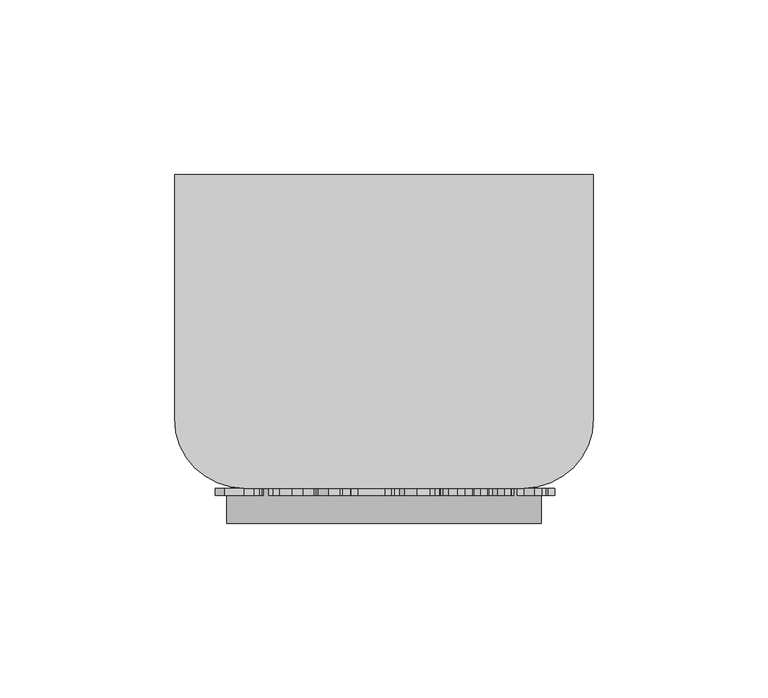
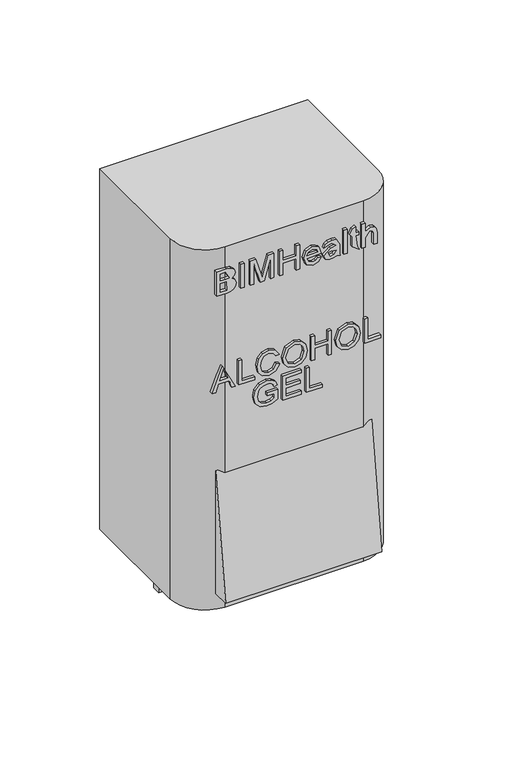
"""IFC4 building model written with IfcOpenShell, lengths in millimetres: furniture geometry, BIMHealth-Alcohol_gel_dispenser-LOD2A-v1 : BIMHealth-Alcohol_gel_dispenser-LOD2A-v1."""

from ifc_helpers import new_model, si_unit, point, frame, frame_2d, origin, place, context, project, spatial, polyline, circle_curve, trimmed, segment, composite_curve, outline, extrude, source, transform, mapped, element, save


def furniture_c1ab0958(model_context):
    return source(origin(), model_context, "Body", "SweptSolid", [
        extrude(outline(composite_curve([segment(polyline([(-27.7204761, 1175.8518543), (-32.7330725, 1175.8518543)]), True, "CONTINUOUS"), segment(trimmed(circle_curve(frame_2d((9.9472305, 1178.699775)), 42.7752137), [point((-32.7330725, 1175.8518543))], [point((-27.147504, 1200.0))], False, "CARTESIAN"), True, "CONTINUOUS"), segment(polyline([(-27.147504, 1200.0), (-21.25, 1200.0)]), True, "CONTINUOUS"), segment(trimmed(circle_curve(frame_2d((9.9472305, 1178.699775)), 37.7752137), [point((-21.25, 1200.0))], [point((-27.7204761, 1175.8518543))], True, "CARTESIAN"), True, "CONTINUOUS")], self_intersect=False)), frame((15.0, 0.0, 0.0), z_axis=(1.0, 0.0, 0.0), x_axis=(0.0, 1.0, 0.0)), (0.0, 0.0, 1.0), 90.0),
        extrude(outline(composite_curve([segment(polyline([(120.0, 0.0), (120.0, -70.0)]), True, "CONTINUOUS"), segment(trimmed(circle_curve(frame_2d((100.0, -70.0)), 20.0), [point((120.0, -70.0))], [point((100.0, -90.0))], False, "CARTESIAN"), True, "CONTINUOUS"), segment(polyline([(100.0, -90.0), (20.0, -90.0)]), True, "CONTINUOUS"), segment(trimmed(circle_curve(frame_2d((20.0, -70.0)), 20.0), [point((20.0, -90.0))], [point((0.0, -70.0))], False, "CARTESIAN"), True, "CONTINUOUS"), segment(polyline([(0.0, -70.0), (0.0, 0.0), (120.0, 0.0)]), True, "CONTINUOUS")], self_intersect=False)), frame((0.0, 0.0, 1200.0), z_axis=(0.0, 0.0, 1.0), x_axis=(1.0, 0.0, 0.0)), (0.0, 0.0, 1.0), 220.0),
        extrude(outline(polyline([(1334.3741496, 11.6790582), (1334.3741496, 13.6297794), (1338.9895342, 15.3172794), (1338.9895342, 21.4002121), (1334.3741496, 23.0913178), (1334.3741496, 25.042039), (1349.1433804, 17.5744909), (1334.3741496, 11.6790582)]), holes=[polyline([(1340.8356881, 15.995164), (1344.7840054, 17.4410775), (1347.2972265, 18.3605486), (1344.4666977, 19.3954044), (1340.8356881, 20.7259332), (1340.8356881, 15.995164)])]), frame((0.0, -92.0, 0.0), z_axis=(0.0, 1.0, 0.0), x_axis=(0.0, 0.0, 1.0)), (0.0, 0.0, 1.0), 2.0),
        extrude(outline(polyline([(1334.3741496, 27.0143948), (1334.3741496, 36.245164), (1336.2203034, 36.245164), (1336.2203034, 28.8605486), (1349.1433804, 28.8605486), (1349.1433804, 27.0143948), (1334.3741496, 27.0143948)])), frame((0.0, -92.0, 0.0), z_axis=(0.0, 1.0, 0.0), x_axis=(0.0, 0.0, 1.0)), (0.0, 0.0, 1.0), 2.0),
        extrude(outline(polyline([(1339.6241496, 48.7067025), (1336.9053996, 47.1399957), (1335.9895342, 44.3148755), (1336.6620102, 41.7673996), (1338.6938611, 40.0330246), (1341.8741496, 39.4759332), (1344.61814, 39.9464861), (1346.7383323, 41.5780967), (1347.5279958, 44.4663178), (1346.8158563, 46.9615101), (1344.5460246, 48.4759332), (1344.9859284, 50.3220871), (1348.2239092, 48.2361496), (1349.3741496, 44.5384332), (1348.4853275, 40.9903563), (1345.883765, 38.5041784), (1341.8705438, 37.6297794), (1337.9222265, 38.4032169), (1335.1133323, 40.6568226), (1334.1433804, 44.4987698), (1335.4252313, 48.3641544), (1339.1481881, 50.5528563), (1339.6241496, 48.7067025)])), frame((0.0, -92.0, 0.0), z_axis=(0.0, 1.0, 0.0), x_axis=(0.0, 0.0, 1.0)), (0.0, 0.0, 1.0), 2.0),
        extrude(outline(polyline([(1341.5640534, 52.3990101), (1337.8879717, 53.2427601), (1335.1475871, 55.7235294), (1334.1433804, 59.4374717), (1335.0520342, 63.0125919), (1337.727515, 65.572688), (1341.7335246, 66.4759332), (1345.6854477, 65.6177601), (1348.4005919, 63.1225678), (1349.3741496, 59.448289), (1347.3008323, 54.3677601), (1341.5640534, 52.3990101)]), holes=[polyline([(1341.5460246, 54.245164), (1346.148789, 55.7848275), (1347.5279958, 59.4591063), (1346.8122506, 62.1688419), (1344.7948227, 64.0023755), (1341.7479477, 64.6297794), (1337.4895342, 63.1640342), (1335.9895342, 59.4266544), (1337.4751111, 55.7217265), (1341.5460246, 54.245164)])]), frame((0.0, -92.0, 0.0), z_axis=(0.0, 1.0, 0.0), x_axis=(0.0, 0.0, 1.0)), (0.0, 0.0, 1.0), 2.0),
        extrude(outline(polyline([(1334.3741496, 69.0143948), (1334.3741496, 70.8605486), (1341.2972265, 70.8605486), (1341.2972265, 78.7067025), (1334.3741496, 78.7067025), (1334.3741496, 80.5528563), (1349.1433804, 80.5528563), (1349.1433804, 78.7067025), (1343.1433804, 78.7067025), (1343.1433804, 70.8605486), (1349.1433804, 70.8605486), (1349.1433804, 69.0143948), (1334.3741496, 69.0143948)])), frame((0.0, -92.0, 0.0), z_axis=(0.0, 1.0, 0.0), x_axis=(0.0, 0.0, 1.0)), (0.0, 0.0, 1.0), 2.0),
        extrude(outline(polyline([(1341.5640534, 83.0913178), (1337.8879717, 83.9350678), (1335.1475871, 86.4158371), (1334.1433804, 90.1297794), (1335.0520342, 93.7048996), (1337.727515, 96.2649957), (1341.7335246, 97.1682409), (1345.6854477, 96.3100678), (1348.4005919, 93.8148755), (1349.3741496, 90.1405967), (1347.3008323, 85.0600678), (1341.5640534, 83.0913178)]), holes=[polyline([(1341.5460246, 84.9374717), (1346.148789, 86.4771351), (1347.5279958, 90.151414), (1346.8122506, 92.8611496), (1344.7948227, 94.6946832), (1341.7479477, 95.3220871), (1337.4895342, 93.8563419), (1335.9895342, 90.1189621), (1337.4751111, 86.4140342), (1341.5460246, 84.9374717)])]), frame((0.0, -92.0, 0.0), z_axis=(0.0, 1.0, 0.0), x_axis=(0.0, 0.0, 1.0)), (0.0, 0.0, 1.0), 2.0),
        extrude(outline(polyline([(1334.3741496, 99.7067025), (1334.3741496, 108.9374717), (1336.2203034, 108.9374717), (1336.2203034, 101.5528563), (1349.1433804, 101.5528563), (1349.1433804, 99.7067025), (1334.3741496, 99.7067025)])), frame((0.0, -92.0, 0.0), z_axis=(0.0, 1.0, 0.0), x_axis=(0.0, 0.0, 1.0)), (0.0, 0.0, 1.0), 2.0),
        extrude(outline(polyline([(1321.9126111, 43.3990101), (1321.9126111, 47.5528563), (1319.2443419, 47.5528563), (1318.2329236, 45.683265), (1317.758765, 43.1574236), (1318.3879717, 40.3431207), (1320.3134525, 38.32389), (1323.5316015, 37.6297794), (1326.43064, 38.2067025), (1327.8531159, 39.1568226), (1328.898789, 40.7649957), (1329.2972265, 43.1285775), (1328.9276352, 45.2036976), (1327.9432602, 46.6423996), (1326.2359284, 47.4843467), (1326.7154958, 49.1862698), (1329.1584044, 48.0702842), (1330.6187409, 46.0456448), (1331.1433804, 43.1574236), (1330.2383323, 39.2704044), (1327.4709044, 36.683265), (1323.4558804, 35.7836255), (1319.5291977, 36.6868707), (1316.8410967, 39.3623515), (1315.9126111, 43.3052601), (1316.4967458, 46.4368707), (1318.2383323, 49.3990101), (1323.758765, 49.3990101), (1323.758765, 43.3990101), (1321.9126111, 43.3990101)])), frame((0.0, -92.0, 0.0), z_axis=(0.0, 1.0, 0.0), x_axis=(0.0, 0.0, 1.0)), (0.0, 0.0, 1.0), 2.0),
        extrude(outline(polyline([(1316.1433804, 52.3990101), (1316.1433804, 63.245164), (1317.9895342, 63.245164), (1317.9895342, 54.245164), (1322.8356881, 54.245164), (1322.8356881, 62.5528563), (1324.6818419, 62.5528563), (1324.6818419, 54.245164), (1329.0664573, 54.245164), (1329.0664573, 63.0143948), (1330.9126111, 63.0143948), (1330.9126111, 52.3990101), (1316.1433804, 52.3990101)])), frame((0.0, -92.0, 0.0), z_axis=(0.0, 1.0, 0.0), x_axis=(0.0, 0.0, 1.0)), (0.0, 0.0, 1.0), 2.0),
        extrude(outline(polyline([(1316.1433804, 66.0143948), (1316.1433804, 75.245164), (1317.9895342, 75.245164), (1317.9895342, 67.8605486), (1330.9126111, 67.8605486), (1330.9126111, 66.0143948), (1316.1433804, 66.0143948)])), frame((0.0, -92.0, 0.0), z_axis=(0.0, 1.0, 0.0), x_axis=(0.0, 0.0, 1.0)), (0.0, 0.0, 1.0), 2.0),
        extrude(outline(polyline([(-100.0, 1210.0), (-90.0, 1285.0), (-90.0, 1210.0), (-100.0, 1210.0)])), frame((15.0, 0.0, 0.0), z_axis=(1.0, 0.0, 0.0), x_axis=(0.0, 1.0, 0.0)), (0.0, 0.0, 1.0), 90.0),
        extrude(outline(polyline([(1392.8596209, 14.3661949), (1392.8596209, 19.9587429), (1393.1138276, 22.3259304), (1393.8638276, 23.9323006), (1395.2772892, 25.0086227), (1397.2622651, 25.4431179), (1399.5591401, 24.8066997), (1400.936544, 22.9875891), (1402.2436353, 24.4857862), (1403.9689959, 24.9815795), (1405.858419, 24.3920362), (1407.1943565, 22.7622285), (1407.6288517, 20.0020122), (1407.6288517, 14.3661949), (1392.8596209, 14.3661949)]), holes=[polyline([(1394.7057748, 16.2123487), (1399.7826978, 16.2123487), (1399.7826978, 19.8181179), (1394.7057748, 19.9984064), (1394.7057748, 16.2123487)]), polyline([(1401.6288517, 16.2123487), (1405.7826978, 16.2123487), (1405.7826978, 19.3277333), (1401.7875055, 21.5524929), (1401.6288517, 19.5837429), (1401.6288517, 16.2123487)])]), frame((0.0, -92.0, 0.0), z_axis=(0.0, 1.0, 0.0), x_axis=(0.0, 0.0, 1.0)), (0.0, 0.0, 1.0), 2.0),
        extrude(outline(polyline([(30.0585026, -92.0), (28.2123487, -92.0), (28.2123487, -90.0), (30.0585026, -90.0), (30.0585026, -92.0)])), frame((0.0, 0.0, 1392.8596209), z_axis=(0.0, 0.0, 1.0), x_axis=(1.0, 0.0, 0.0)), (0.0, 0.0, 1.0), 14.7692308),
        extrude(outline(polyline([(1392.8596209, 33.7508102), (1392.8596209, 35.5969641), (1405.7826978, 35.5969641), (1392.8596209, 39.3073006), (1392.8596209, 41.8097045), (1405.7826978, 45.520041), (1392.8596209, 45.520041), (1392.8596209, 47.3661949), (1407.6288517, 47.3661949), (1407.6288517, 44.1895122), (1397.3992844, 41.2183583), (1395.0447171, 40.5585026), (1397.2189959, 39.9491276), (1407.6288517, 36.9274929), (1407.6288517, 33.7508102), (1392.8596209, 33.7508102)])), frame((0.0, -92.0, 0.0), z_axis=(0.0, 1.0, 0.0), x_axis=(0.0, 0.0, 1.0)), (0.0, 0.0, 1.0), 2.0),
        extrude(outline(polyline([(1392.8596209, 50.5969641), (1392.8596209, 52.4431179), (1399.7826978, 52.4431179), (1399.7826978, 60.2892718), (1392.8596209, 60.2892718), (1392.8596209, 62.1354256), (1407.6288517, 62.1354256), (1407.6288517, 60.2892718), (1401.6288517, 60.2892718), (1401.6288517, 52.4431179), (1407.6288517, 52.4431179), (1407.6288517, 50.5969641), (1392.8596209, 50.5969641)])), frame((0.0, -92.0, 0.0), z_axis=(0.0, 1.0, 0.0), x_axis=(0.0, 0.0, 1.0)), (0.0, 0.0, 1.0), 2.0),
        extrude(outline(polyline([(1396.0903901, 72.7291756), (1394.8608228, 71.5392718), (1394.4750055, 69.7291756), (1395.3079382, 67.3511708), (1397.7057748, 66.2892718), (1398.2033709, 74.5969641), (1402.4329382, 73.1961227), (1403.936544, 69.5885506), (1402.4293324, 65.8746083), (1398.1925536, 64.4431179), (1394.0909911, 65.8601852), (1392.6288517, 69.6931179), (1393.4762074, 72.8463631), (1395.8596209, 74.5392718), (1396.0903901, 72.7291756)]), holes=[polyline([(1399.5519286, 66.2892718), (1401.3998853, 67.3079016), (1402.0903901, 69.5813391), (1401.2250055, 72.0116276), (1399.5519286, 72.7508102), (1399.5519286, 66.2892718)])]), frame((0.0, -92.0, 0.0), z_axis=(0.0, 1.0, 0.0), x_axis=(0.0, 0.0, 1.0)), (0.0, 0.0, 1.0), 2.0),
        extrude(outline(polyline([(1393.5519286, 83.5969641), (1392.8596209, 85.6738872), (1394.4119046, 85.3060987), (1397.6192363, 85.2123487), (1399.9161113, 85.2123487), (1403.608419, 83.2922766), (1403.936544, 81.0548968), (1403.5651498, 78.6191997), (1402.5086594, 77.0110266), (1400.7057748, 76.2123487), (1401.7352219, 78.9491276), (1402.0903901, 80.816916), (1399.7826978, 83.3553776), (1399.1480824, 80.1534545), (1395.7442363, 75.9815795), (1393.5050536, 76.9172766), (1392.6288517, 79.598166), (1392.9930344, 81.5759304), (1393.5519286, 83.5969641)]), holes=[polyline([(1396.9611834, 83.2147526), (1394.9167123, 81.8589833), (1394.4750055, 79.9911949), (1397.0711594, 78.7994881), (1397.3704382, 80.3878295), (1396.9611834, 83.2147526)])]), frame((0.0, -92.0, 0.0), z_axis=(0.0, 1.0, 0.0), x_axis=(0.0, 0.0, 1.0)), (0.0, 0.0, 1.0), 2.0),
        extrude(outline(polyline([(89.5969641, -92.0), (87.7508102, -92.0), (87.7508102, -90.0), (89.5969641, -90.0), (89.5969641, -92.0)])), frame((0.0, 0.0, 1392.8596209), z_axis=(0.0, 0.0, 1.0), x_axis=(1.0, 0.0, 0.0)), (0.0, 0.0, 1.0), 14.7692308),
        extrude(outline(polyline([(1395.1438757, 95.3661949), (1401.8596209, 94.4431179), (1401.8596209, 96.2892718), (1403.7057748, 96.2892718), (1403.7057748, 94.4431179), (1407.4269286, 94.4431179), (1406.3415921, 92.5969641), (1403.7057748, 91.2123487), (1401.8596209, 92.5969641), (1395.8343805, 92.5969641), (1392.8055344, 96.520041), (1395.1438757, 95.3661949)])), frame((0.0, -92.0, 0.0), z_axis=(0.0, 1.0, 0.0), x_axis=(0.0, 0.0, 1.0)), (0.0, 0.0, 1.0), 2.0),
        extrude(outline(polyline([(1392.8596209, 98.1354256), (1392.8596209, 99.9815795), (1398.6216401, 99.9815795), (1402.0903901, 102.8048968), (1401.4810151, 104.4707622), (1399.5338998, 105.0585026), (1392.8596209, 105.0585026), (1392.8596209, 106.9046564), (1399.7250055, 106.9046564), (1402.1516882, 106.5260506), (1403.4623853, 105.2676372), (1403.936544, 103.1943199), (1402.1985632, 99.9815795), (1407.6288517, 99.9815795), (1407.6288517, 98.1354256), (1392.8596209, 98.1354256)])), frame((0.0, -92.0, 0.0), z_axis=(0.0, 1.0, 0.0), x_axis=(0.0, 0.0, 1.0)), (0.0, 0.0, 1.0), 2.0),
        extrude(outline(composite_curve([segment(trimmed(circle_curve(frame_2d((60.0, -60.0)), 10.0), [point((50.0, -60.0))], [point((70.0, -60.0))], False, "CARTESIAN"), True, "CONTINUOUS"), segment(trimmed(circle_curve(frame_2d((60.0, -60.0)), 10.0), [point((70.0, -60.0))], [point((50.0, -60.0))], False, "CARTESIAN"), True, "CONTINUOUS")], self_intersect=False)), frame((0.0, 0.0, 1191.2594935), z_axis=(0.0, 0.0, 1.0), x_axis=(1.0, 0.0, 0.0)), (0.0, 0.0, 1.0), 8.7405065),
    ])


if __name__ == "__main__":
    model = new_model("IFC4")
    model_context = context("Model", 3, world=origin())
    ifc_project = project(units=[si_unit("LENGTHUNIT", "METRE", prefix="MILLI")], contexts=[model_context])
    site = spatial("IfcSite", under=ifc_project)
    building = spatial("IfcBuilding", under=site)
    placement = place(None, origin())
    furniture_shape = furniture_c1ab0958(model_context)
    element("IfcFurniture", 1, ObjectType="BIMHealth-Alcohol_gel_dispenser-LOD2A-v1 : BIMHealth-Alcohol_gel_dispenser-LOD2A-v1", at=placement, inside=building, context=model_context, shape_type="MappedRepresentation", body=[
        mapped(furniture_shape, transform((0.0, 0.0, 0.0), x_axis=(1.0, 0.0, 0.0), y_axis=(0.0, 1.0, 0.0), z_axis=(0.0, 0.0, 1.0))),
    ])
    save(model, "model.ifc")
